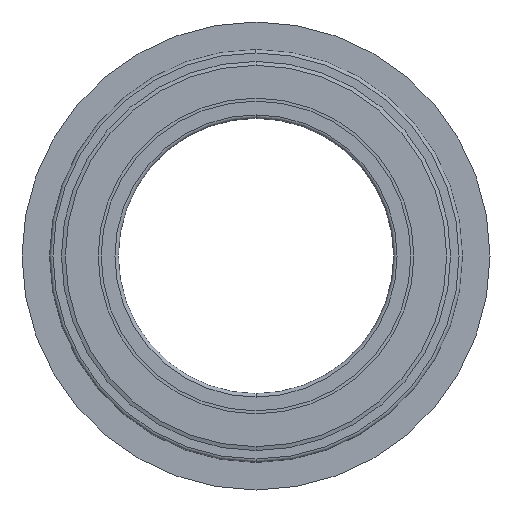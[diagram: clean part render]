
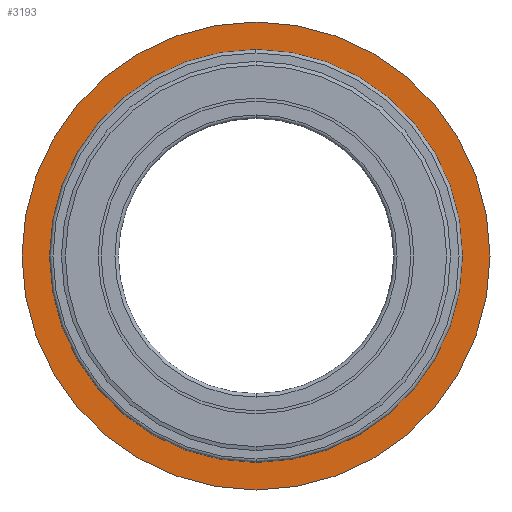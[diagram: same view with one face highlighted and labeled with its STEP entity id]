
A CAD part, left-side view. The second image highlights one B-rep face of the part: STEP entity #3193.
In plain terms, the highlighted planar face has unit normal (-1, 0, 0).
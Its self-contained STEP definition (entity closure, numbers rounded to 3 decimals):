
#2618=CARTESIAN_POINT('',(2.7,0.,0.));
#2619=DIRECTION('',(-1.,0.,0.));
#2620=DIRECTION('',(0.,0.,1.));
#2621=AXIS2_PLACEMENT_3D('',#2618,#2619,#2620);
#2627=CARTESIAN_POINT('',(2.7,0.,0.));
#2628=DIRECTION('',(-1.,0.,0.));
#2629=DIRECTION('',(0.,0.,-1.));
#2630=AXIS2_PLACEMENT_3D('',#2627,#2628,#2629);
#2636=CARTESIAN_POINT('',(2.7,0.,0.));
#2637=DIRECTION('',(-1.,0.,0.));
#2638=DIRECTION('',(0.,0.,-1.));
#2639=AXIS2_PLACEMENT_3D('',#2636,#2637,#2638);
#2641=CARTESIAN_POINT('',(2.7,0.,0.));
#2642=DIRECTION('',(-1.,0.,0.));
#2643=DIRECTION('',(0.,0.,1.));
#2644=AXIS2_PLACEMENT_3D('',#2641,#2642,#2643);
#2880=CARTESIAN_POINT('',(2.7,0.,6.8));
#2881=VERTEX_POINT('',#2880);
#2882=CARTESIAN_POINT('',(2.7,0.,-6.8));
#2883=VERTEX_POINT('',#2882);
#2888=CARTESIAN_POINT('',(2.7,0.,-6.));
#2889=CARTESIAN_POINT('',(2.7,0.,6.));
#2890=VERTEX_POINT('',#2888);
#2891=VERTEX_POINT('',#2889);
#3178=CARTESIAN_POINT('',(2.7,0.,6.4));
#3179=DIRECTION('',(-1.,0.,0.));
#3180=DIRECTION('',(0.,1.,0.));
#3181=AXIS2_PLACEMENT_3D('',#3178,#3179,#3180);
#3182=PLANE('',#3181);
#3184=ORIENTED_EDGE('',*,*,#3183,.F.);
#3186=ORIENTED_EDGE('',*,*,#3185,.F.);
#3187=EDGE_LOOP('',(#3184,#3186));
#3188=FACE_OUTER_BOUND('',#3187,.F.);
#3189=ORIENTED_EDGE('',*,*,#3171,.T.);
#3190=ORIENTED_EDGE('',*,*,#3160,.T.);
#3191=EDGE_LOOP('',(#3189,#3190));
#3192=FACE_BOUND('',#3191,.F.);
#3193=ADVANCED_FACE('',(#3188,#3192),#3182,.T.);
#2622=CIRCLE('',#2621,6.);
#2631=CIRCLE('',#2630,6.);
#2640=CIRCLE('',#2639,6.8);
#2645=CIRCLE('',#2644,6.8);
#3160=EDGE_CURVE('',#2891,#2890,#2622,.T.);
#3171=EDGE_CURVE('',#2890,#2891,#2631,.T.);
#3183=EDGE_CURVE('',#2883,#2881,#2640,.T.);
#3185=EDGE_CURVE('',#2881,#2883,#2645,.T.);
